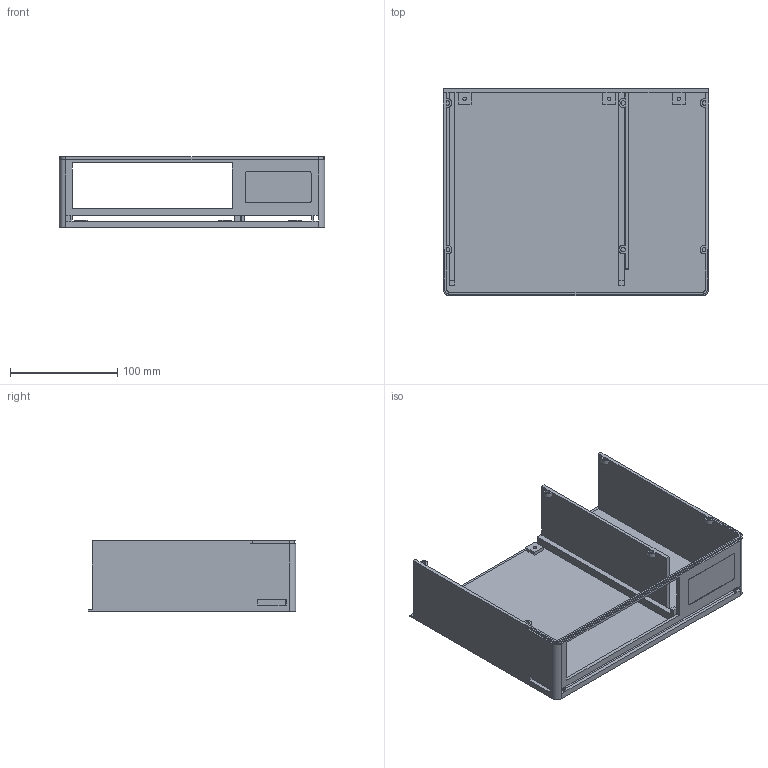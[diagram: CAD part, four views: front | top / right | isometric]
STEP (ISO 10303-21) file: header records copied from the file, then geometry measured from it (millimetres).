
FILE_DESCRIPTION(('Open CASCADE Model'),'2;1');
FILE_NAME('Open CASCADE Shape Model','2026-11-07T14:08:05',('Author'),( 'Open CASCADE'),'Open CASCADE STEP processor 7.9','Open CASCADE 7.9' ,'Unknown');
FILE_SCHEMA(('AUTOMOTIVE_DESIGN { 1 0 10303 214 1 1 1 1 }'));
Length unit declared in the file: millimetre
Products named in the file (1): Open CASCADE STEP translator 7.9 4
Bounding box: 248 x 194 x 66 mm (x, y, z)
Volume: 297914.2 mm3; surface area: 193741.2 mm2
Topology: 1 solids, 1 shells, 131 faces, 373 edges, 250 vertices
Faces by surface type: plane 96, cylinder 35
Full cylindrical faces by diameter (mm): 3.3 x3
Entity records: 8952 total; most frequent: CARTESIAN_POINT 1878, DIRECTION 1189, ORIENTED_EDGE 746, PCURVE 746, DEFINITIONAL_REPRESENTATION 746, LINE 712, VECTOR 712, EDGE_CURVE 373
